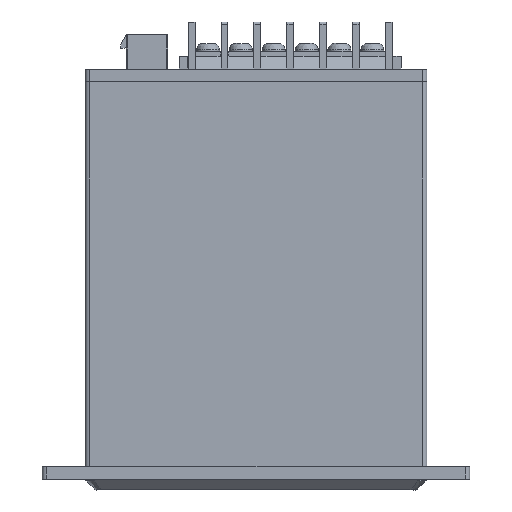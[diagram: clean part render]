
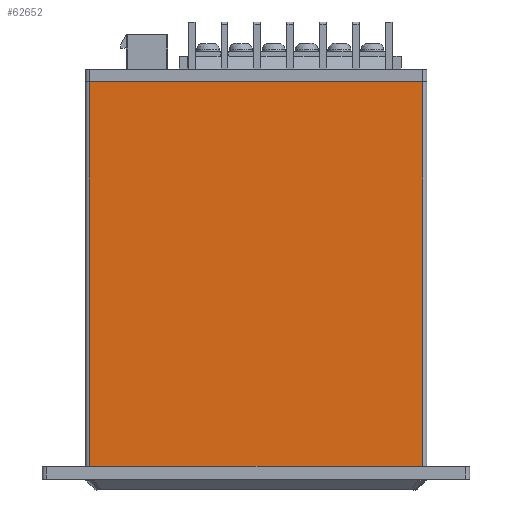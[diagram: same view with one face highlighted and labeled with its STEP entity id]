
A CAD part, left-side view. The second image highlights one B-rep face of the part: STEP entity #62652.
In plain terms, the highlighted planar face has unit normal (-1, 0, 0).
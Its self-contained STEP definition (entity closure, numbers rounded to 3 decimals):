
#10757=CARTESIAN_POINT('',(-25.75,-39.,90.0));
#10758=VERTEX_POINT('',#10757);
#10790=CARTESIAN_POINT('',(-25.75,39.0,90.0));
#10791=VERTEX_POINT('',#10790);
#10792=CARTESIAN_POINT('',(-25.75,39.0,90.0));
#10793=DIRECTION('',(0.0,-1.0,0.0));
#10794=VECTOR('',#10793,78.);
#10795=LINE('',#10792,#10794);
#10796=EDGE_CURVE('',#10791,#10758,#10795,.T.);
#24978=CARTESIAN_POINT('',(-25.75,-39.0,0.0));
#24979=VERTEX_POINT('',#24978);
#24987=CARTESIAN_POINT('',(-25.75,39.0,0.0));
#24988=VERTEX_POINT('',#24987);
#24989=CARTESIAN_POINT('',(-25.75,39.0,0.0));
#24990=DIRECTION('',(0.0,-1.0,0.0));
#24991=VECTOR('',#24990,78.0);
#24992=LINE('',#24989,#24991);
#24993=EDGE_CURVE('',#24988,#24979,#24992,.T.);
#62627=CARTESIAN_POINT('',(-25.75,-39.0,0.0));
#62628=DIRECTION('',(0.0,0.0,1.0));
#62629=VECTOR('',#62628,90.0);
#62630=LINE('',#62627,#62629);
#62631=EDGE_CURVE('',#24979,#10758,#62630,.T.);
#62636=CARTESIAN_POINT('',(-25.75,39.0,0.0));
#62637=DIRECTION('',(-1.0,0.0,0.0));
#62638=DIRECTION('',(0.0,0.0,1.0));
#62639=AXIS2_PLACEMENT_3D('',#62636,#62637,#62638);
#62640=PLANE('',#62639);
#62641=ORIENTED_EDGE('',*,*,#24993,.T.);
#62642=ORIENTED_EDGE('',*,*,#62631,.T.);
#62643=ORIENTED_EDGE('',*,*,#10796,.F.);
#62644=CARTESIAN_POINT('',(-25.75,39.0,0.0));
#62645=DIRECTION('',(0.0,0.0,1.0));
#62646=VECTOR('',#62645,90.0);
#62647=LINE('',#62644,#62646);
#62648=EDGE_CURVE('',#24988,#10791,#62647,.T.);
#62649=ORIENTED_EDGE('',*,*,#62648,.F.);
#62650=EDGE_LOOP('',(#62641,#62642,#62643,#62649));
#62651=FACE_OUTER_BOUND('',#62650,.T.);
#62652=ADVANCED_FACE('',(#62651),#62640,.T.);
